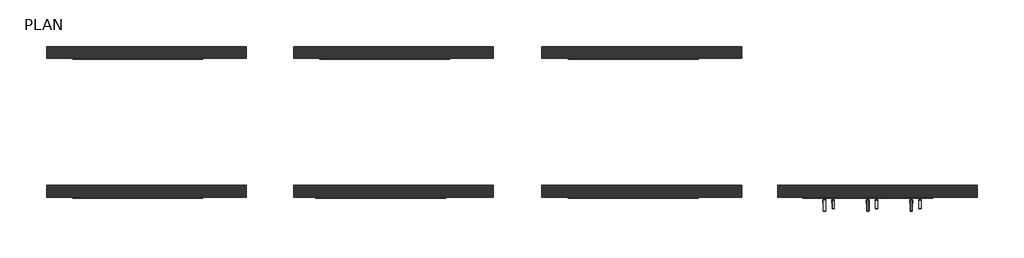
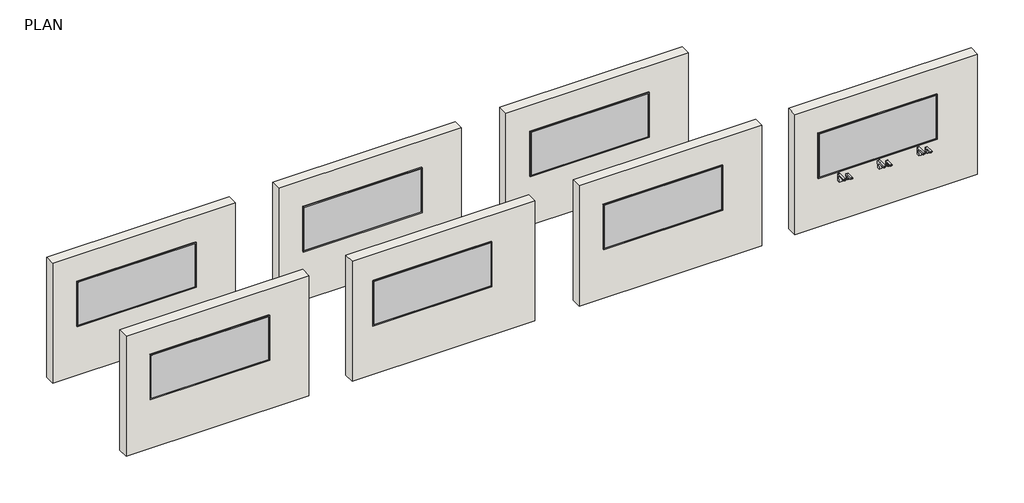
# One storey, incomplete: 10 proxies, 7 walls, 3 flow terminals.
"""IFC4 building model written with IfcOpenShell, lengths in millimetres."""

from ifc_helpers import new_model, si_unit, origin, origin_with_axes, place, context, project, spatial, polyline, outline, extrude, transform, mapped, element, save
from components import specialty_equipment_7b20ac78, specialty_equipment_3f77c257, flow_terminal_4b3c92f4

model = new_model("IFC4")

# Units and contexts
model_context = context("Model", 3, world=origin())
ifc_project = project(units=[si_unit("LENGTHUNIT", "METRE", prefix="MILLI")], contexts=[model_context])

# Site, building, storey
site = spatial("IfcSite", under=ifc_project)
building = spatial("IfcBuilding", under=site)
storey = spatial("IfcBuildingStorey", under=building, Name="PLAN", Elevation=0.0)

# Proxies
placement = place(None, origin())
specialty_equipment_shape = specialty_equipment_7b20ac78(model_context)
element("IfcBuildingElementProxy", 1, Name="Soap_Dispenser-Bradley_Corp-Deck_Mounted-Verge_Zen_6-3700 : Verge Zen Series 6-3700", ObjectType="Soap_Dispenser-Bradley_Corp-Deck_Mounted-Verge_Zen_6-3700 : Verge Zen Series 6-3700", at=placement, inside=storey, context=model_context, shape_type="MappedRepresentation", body=[
    mapped(specialty_equipment_shape, transform((-549.2729508, 1101.3950523, 850.9), x_axis=(1.0, 0.0, 0.0), y_axis=(0.0, 1.0, 0.0), z_axis=(0.0, 0.0, 1.0))),
])
element("IfcBuildingElementProxy", 2, Name="Soap_Dispenser-Bradley_Corp-Deck_Mounted-Verge_Zen_6-3700 : Verge Zen Series 6-3700", ObjectType="Soap_Dispenser-Bradley_Corp-Deck_Mounted-Verge_Zen_6-3700 : Verge Zen Series 6-3700", at=placement, inside=storey, context=model_context, shape_type="MappedRepresentation", body=[
    mapped(specialty_equipment_shape, transform((974.7270492, 1101.3950523, 850.9), x_axis=(1.0, 0.0, 0.0), y_axis=(0.0, 1.0, 0.0), z_axis=(0.0, 0.0, 1.0))),
])
element("IfcBuildingElementProxy", 3, Name="Soap_Dispenser-Bradley_Corp-Deck_Mounted-Verge_Zen_6-3700 : Verge Zen Series 6-3700", ObjectType="Soap_Dispenser-Bradley_Corp-Deck_Mounted-Verge_Zen_6-3700 : Verge Zen Series 6-3700", at=placement, inside=storey, context=model_context, shape_type="MappedRepresentation", body=[
    mapped(specialty_equipment_shape, transform((212.7270492, 1101.3950523, 850.9), x_axis=(1.0, 0.0, 0.0), y_axis=(0.0, 1.0, 0.0), z_axis=(0.0, 0.0, 1.0))),
])
specialty_equipment_2_shape = specialty_equipment_3f77c257(model_context)
element("IfcBuildingElementProxy", 4, Name="Bradley-Washroom_Accessories-Mirrors-780_Custom (3) : Bradley-Washroom_Accessories-Mirrors-780_Custom (3)", ObjectType="Bradley-Washroom_Accessories-Mirrors-780_Custom (3) : Bradley-Washroom_Accessories-Mirrors-780_Custom (3)", at=placement, inside=storey, context=model_context, shape_type="MappedRepresentation", body=[
    mapped(specialty_equipment_2_shape, transform((-12757.7087745, 3622.3450523, 1454.15), x_axis=(1.0, 0.0, 0.0), y_axis=(0.0, 0.0, 1.0), z_axis=(0.0, -1.0, 0.0))),
])
element("IfcBuildingElementProxy", 5, Name="Bradley-Washroom_Accessories-Mirrors-780_Custom (3) : Bradley-Washroom_Accessories-Mirrors-780_Custom (3)", ObjectType="Bradley-Washroom_Accessories-Mirrors-780_Custom (3) : Bradley-Washroom_Accessories-Mirrors-780_Custom (3)", at=placement, inside=storey, context=model_context, shape_type="MappedRepresentation", body=[
    mapped(specialty_equipment_2_shape, transform((-8418.6419459, 3622.3450523, 1454.15), x_axis=(1.0, 0.0, 0.0), y_axis=(0.0, 0.0, 1.0), z_axis=(0.0, -1.0, 0.0))),
])
element("IfcBuildingElementProxy", 6, Name="Bradley-Washroom_Accessories-Mirrors-780_Custom (3) : Bradley-Washroom_Accessories-Mirrors-780_Custom (3)", ObjectType="Bradley-Washroom_Accessories-Mirrors-780_Custom (3) : Bradley-Washroom_Accessories-Mirrors-780_Custom (3)", at=placement, inside=storey, context=model_context, shape_type="MappedRepresentation", body=[
    mapped(specialty_equipment_2_shape, transform((-4060.3875814, 3622.3450523, 1454.15), x_axis=(1.0, 0.0, 0.0), y_axis=(0.0, 0.0, 1.0), z_axis=(0.0, -1.0, 0.0))),
])
element("IfcBuildingElementProxy", 7, Name="Bradley-Washroom_Accessories-Mirrors-780_Custom (3) : Bradley-Washroom_Accessories-Mirrors-780_Custom (3)", ObjectType="Bradley-Washroom_Accessories-Mirrors-780_Custom (3) : Bradley-Washroom_Accessories-Mirrors-780_Custom (3)", at=placement, inside=storey, context=model_context, shape_type="MappedRepresentation", body=[
    mapped(specialty_equipment_2_shape, transform((-12757.7087745, 1183.9450523, 1454.15), x_axis=(1.0, 0.0, 0.0), y_axis=(0.0, 0.0, 1.0), z_axis=(0.0, -1.0, 0.0))),
])
element("IfcBuildingElementProxy", 8, Name="Bradley-Washroom_Accessories-Mirrors-780_Custom (3) : Bradley-Washroom_Accessories-Mirrors-780_Custom (3)", ObjectType="Bradley-Washroom_Accessories-Mirrors-780_Custom (3) : Bradley-Washroom_Accessories-Mirrors-780_Custom (3)", at=placement, inside=storey, context=model_context, shape_type="MappedRepresentation", body=[
    mapped(specialty_equipment_2_shape, transform((-8488.4919459, 1183.9450523, 1454.15), x_axis=(1.0, 0.0, 0.0), y_axis=(0.0, 0.0, 1.0), z_axis=(0.0, -1.0, 0.0))),
])
element("IfcBuildingElementProxy", 9, Name="Bradley-Washroom_Accessories-Mirrors-780_Custom (3) : Bradley-Washroom_Accessories-Mirrors-780_Custom (3)", ObjectType="Bradley-Washroom_Accessories-Mirrors-780_Custom (3) : Bradley-Washroom_Accessories-Mirrors-780_Custom (3)", at=placement, inside=storey, context=model_context, shape_type="MappedRepresentation", body=[
    mapped(specialty_equipment_2_shape, transform((-4060.3875814, 1183.9450523, 1454.15), x_axis=(1.0, 0.0, 0.0), y_axis=(0.0, 0.0, 1.0), z_axis=(0.0, -1.0, 0.0))),
])
element("IfcBuildingElementProxy", 10, Name="Bradley-Washroom_Accessories-Mirrors-780_Custom (3) : Bradley-Washroom_Accessories-Mirrors-780_Custom (3)", ObjectType="Bradley-Washroom_Accessories-Mirrors-780_Custom (3) : Bradley-Washroom_Accessories-Mirrors-780_Custom (3)", at=placement, inside=storey, context=model_context, shape_type="MappedRepresentation", body=[
    mapped(specialty_equipment_2_shape, transform((60.3270492, 1183.9450523, 1454.15), x_axis=(1.0, 0.0, 0.0), y_axis=(0.0, 0.0, 1.0), z_axis=(0.0, -1.0, 0.0))),
])

# Flow terminals
flow_terminal_shape = flow_terminal_4b3c92f4(model_context)
element("IfcFlowTerminal", 11, ObjectType="Faucet-Bradley_Corp-Deck_Mounted-Verge_Zen_S53-3700 : Verge Zen Series S53-3700", at=placement, inside=storey, context=model_context, shape_type="MappedRepresentation", body=[
    mapped(flow_terminal_shape, transform((-701.6729508, 1106.1401113, 850.9), x_axis=(1.0, 0.0, 0.0), y_axis=(0.0, 1.0, 0.0), z_axis=(0.0, 0.0, 1.0))),
])
element("IfcFlowTerminal", 12, ObjectType="Faucet-Bradley_Corp-Deck_Mounted-Verge_Zen_S53-3700 : Verge Zen Series S53-3700", at=placement, inside=storey, context=model_context, shape_type="MappedRepresentation", body=[
    mapped(flow_terminal_shape, transform((822.3270492, 1106.7398509, 850.9), x_axis=(1.0, 0.0, 0.0), y_axis=(0.0, 1.0, 0.0), z_axis=(0.0, 0.0, 1.0))),
])
element("IfcFlowTerminal", 13, ObjectType="Faucet-Bradley_Corp-Deck_Mounted-Verge_Zen_S53-3700 : Verge Zen Series S53-3700", at=placement, inside=storey, context=model_context, shape_type="MappedRepresentation", body=[
    mapped(flow_terminal_shape, transform((60.3270492, 1106.1401113, 850.9), x_axis=(1.0, 0.0, 0.0), y_axis=(0.0, 1.0, 0.0), z_axis=(0.0, 0.0, 1.0))),
])

# Walls
element("IfcWall", 14, ObjectType="Generic - 8\"", at=placement, inside=storey, context=model_context, shape_type="SweptSolid", body=[
    extrude(outline(polyline([(-10852.7087745, 3622.3450523), (-14357.9087745, 3622.3450523), (-14357.9087745, 3825.5450523), (-10852.7087745, 3825.5450523), (-10852.7087745, 3622.3450523)])), origin_with_axes(), (0.0, 0.0, 1.0), 2438.4),
])
element("IfcWall", 15, ObjectType="Generic - 8\"", at=placement, inside=storey, context=model_context, shape_type="SweptSolid", body=[
    extrude(outline(polyline([(-6513.6419459, 3622.3450523), (-10018.8419459, 3622.3450523), (-10018.8419459, 3825.5450523), (-6513.6419459, 3825.5450523), (-6513.6419459, 3622.3450523)])), origin_with_axes(), (0.0, 0.0, 1.0), 2438.4),
])
element("IfcWall", 16, ObjectType="Generic - 8\"", at=placement, inside=storey, context=model_context, shape_type="SweptSolid", body=[
    extrude(outline(polyline([(-2155.3875814, 3622.3450523), (-5660.5875814, 3622.3450523), (-5660.5875814, 3825.5450523), (-2155.3875814, 3825.5450523), (-2155.3875814, 3622.3450523)])), origin_with_axes(), (0.0, 0.0, 1.0), 2438.4),
])
element("IfcWall", 17, ObjectType="Generic - 8\"", at=placement, inside=storey, context=model_context, shape_type="SweptSolid", body=[
    extrude(outline(polyline([(-10852.7087745, 1183.9450523), (-14357.9087745, 1183.9450523), (-14357.9087745, 1387.1450523), (-10852.7087745, 1387.1450523), (-10852.7087745, 1183.9450523)])), origin_with_axes(), (0.0, 0.0, 1.0), 2438.4),
])
element("IfcWall", 18, ObjectType="Generic - 8\"", at=placement, inside=storey, context=model_context, shape_type="SweptSolid", body=[
    extrude(outline(polyline([(-6513.6419459, 1183.9450523), (-10018.8419459, 1183.9450523), (-10018.8419459, 1387.1450523), (-6513.6419459, 1387.1450523), (-6513.6419459, 1183.9450523)])), origin_with_axes(), (0.0, 0.0, 1.0), 2438.4),
])
element("IfcWall", 19, ObjectType="Generic - 8\"", at=placement, inside=storey, context=model_context, shape_type="SweptSolid", body=[
    extrude(outline(polyline([(-2155.3875814, 1183.9450523), (-5660.5875814, 1183.9450523), (-5660.5875814, 1387.1450523), (-2155.3875814, 1387.1450523), (-2155.3875814, 1183.9450523)])), origin_with_axes(), (0.0, 0.0, 1.0), 2438.4),
])
element("IfcWall", 20, ObjectType="Generic - 8\"", at=placement, inside=storey, context=model_context, shape_type="SweptSolid", body=[
    extrude(outline(polyline([(1984.3770492, 1183.9450523), (-1520.8229508, 1183.9450523), (-1520.8229508, 1387.1450523), (1984.3770492, 1387.1450523), (1984.3770492, 1183.9450523)])), origin_with_axes(), (0.0, 0.0, 1.0), 2438.4),
])

save(model, "model.ifc")
